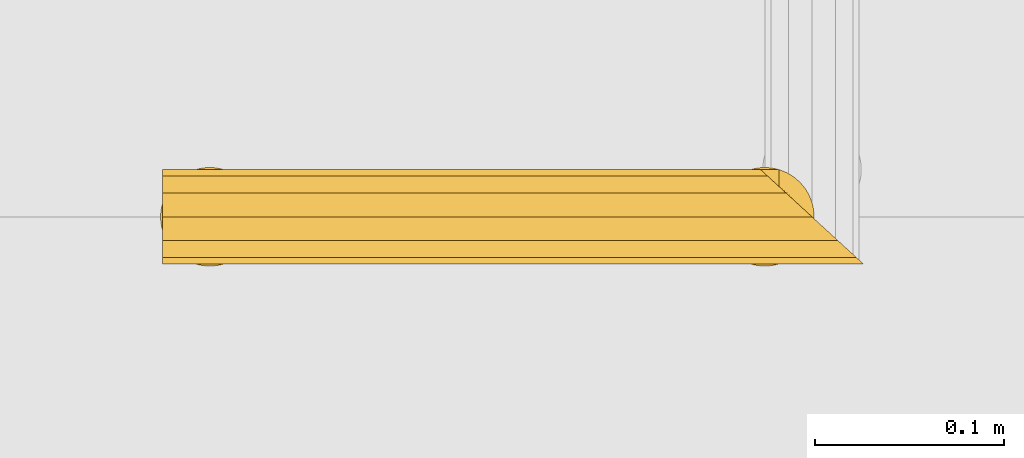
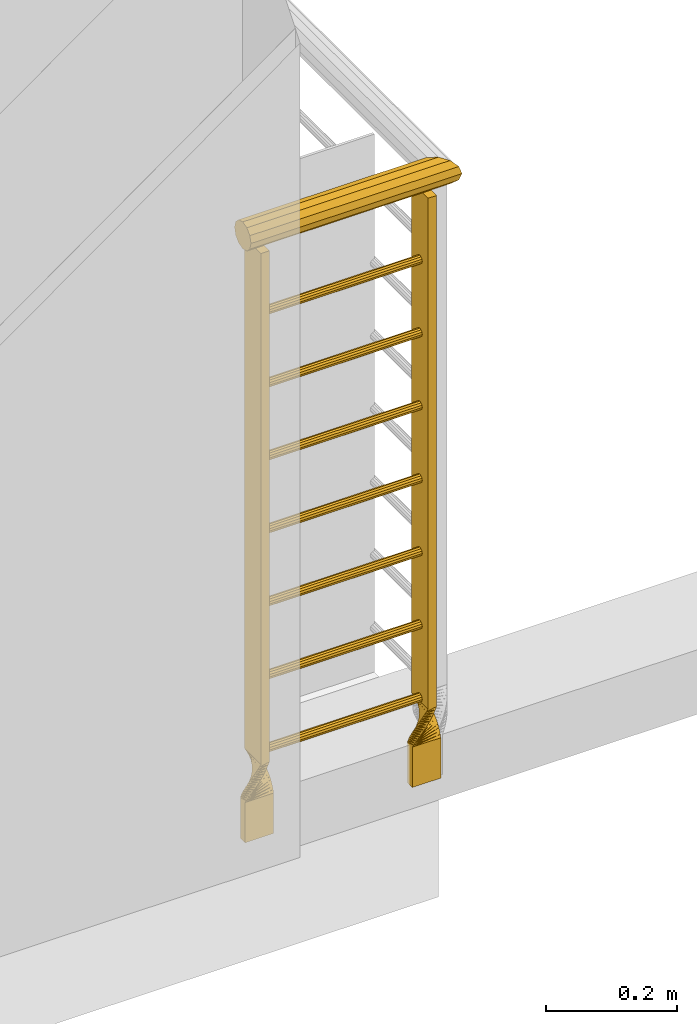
# One storey, part 17 of 17: 1 railing.
"""IFC2X3 building model written with IfcOpenShell, lengths in metres."""

from ifc_helpers import new_model, entity, si_unit, converted_unit, money_unit, direction, frame, origin_with_axes, place, context, subcontext, project, spatial, open_shell, faceted_brep, surface_model, source, transform, mapped, material, type_object, element, save


model = new_model("IFC2X3")

# Units and contexts
model_context = context("Model", 3, precision=1e-05, world=origin_with_axes(), true_north=direction((0.0, 1.0)))
body_context = subcontext(model_context, "Body", "Model", "MODEL_VIEW")
ifc_project = project(units=[si_unit("LENGTHUNIT", "METRE"), si_unit("AREAUNIT", "SQUARE_METRE"), si_unit("VOLUMEUNIT", "CUBIC_METRE"), converted_unit("PLANEANGLEUNIT", "DEGREE", entity("IfcPlaneAngleMeasure", 0.0174532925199), si_unit("PLANEANGLEUNIT", "RADIAN"), dimensions=[0, 0, 0, 0, 0, 0, 0]), si_unit("SOLIDANGLEUNIT", "STERADIAN"), money_unit("EUR"), converted_unit("TIMEUNIT", "Year", entity("IfcTimeMeasure", 31556926.0), si_unit("TIMEUNIT", "SECOND"), dimensions=[0, 0, 0, 0, 0, 0, 0]), si_unit("MASSUNIT", "GRAM"), si_unit("THERMODYNAMICTEMPERATUREUNIT", "DEGREE_CELSIUS"), si_unit("LUMINOUSINTENSITYUNIT", "LUMEN")], contexts=[model_context])

# Site, building, storey
site_placement = place(None, origin_with_axes())
site = spatial("IfcSite", under=ifc_project, at=site_placement, Name="Undefined", CompositionType="ELEMENT")
building_placement = place(site_placement, origin_with_axes())
building = spatial("IfcBuilding", under=site, at=building_placement, Name="Undefined", CompositionType="ELEMENT")
storey_placement = place(building_placement, frame((0.0, 0.0, 9.425), z_axis=(0.0, 0.0, 1.0), x_axis=(1.0, 0.0, 0.0)))
storey = spatial("IfcBuildingStorey", under=building, at=storey_placement, Name="Mezzannine", CompositionType="ELEMENT", Elevation=9.425)

# Railing
ifc_material = material(Name="50 %")
railing_type = type_object("IfcRailingType", Name="Rampe tordue 18", PredefinedType="NOTDEFINED")
shared_shape = source(origin_with_axes(), body_context, "Body", "SurfaceModel", [
    faceted_brep([(-0.0272489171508, 0.025, 1.125), (-0.0235982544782, 0.0216506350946, 1.1375), (0.343962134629, 0.0216506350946, 1.1375), (0.343962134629, 0.025, 1.125), (0.343962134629, 0.0216506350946, 1.1125), (-0.0235982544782, 0.0216506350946, 1.1125), (-0.0136244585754, 0.0125, 1.10334936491), (0.0, 0.0, 1.1), (0.0136244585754, -0.0125, 1.10334936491), (0.0235982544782, -0.0216506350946, 1.1125), (0.0272489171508, -0.025, 1.125), (0.0235982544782, -0.0216506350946, 1.1375), (0.0136244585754, -0.0125, 1.14665063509), (0.0, 0.0, 1.15), (-0.0136244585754, 0.0125, 1.14665063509), (0.343962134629, 0.0125, 1.14665063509), (0.343962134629, -0.0125, 1.10334936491), (0.343962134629, 0.0, 1.1), (0.343962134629, 0.0125, 1.10334936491), (0.343962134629, 0.0, 1.15), (0.343962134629, -0.0125, 1.14665063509), (0.343962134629, -0.0216506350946, 1.1375), (0.343962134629, -0.025, 1.125), (0.343962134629, -0.0216506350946, 1.1125)], [[[0, 1, 2, 3]], [[0, 3, 4, 5]], [[0, 5, 6, 7, 8, 9, 10, 11, 12, 13, 14, 1]], [[14, 15, 2, 1]], [[16, 17, 18, 4, 3, 2, 15, 19, 20, 21, 22, 23]], [[5, 4, 18, 6]], [[6, 18, 17, 7]], [[7, 17, 16, 8]], [[8, 16, 23, 9]], [[9, 23, 22, 10]], [[10, 22, 21, 11]], [[11, 21, 20, 12]], [[12, 20, 19, 13]], [[13, 19, 15, 14]]]),
    faceted_brep([(0.0, -0.0075, 0.0), (0.05, -0.0075, 0.0), (0.05, -0.0075, 0.075), (0.0, -0.0075, 0.075), (0.0, 0.0075, 0.0), (0.05, 0.0075, 0.0), (0.05, 0.0075, 0.075), (0.0, 0.0075, 0.075)], [[[0, 1, 2, 3]], [[0, 4, 5, 1]], [[1, 5, 6, 2]], [[3, 2, 6, 7]], [[4, 0, 3, 7]], [[5, 4, 7, 6]]]),
    surface_model("IfcShellBasedSurfaceModel", [(0.0, -0.0075, 0.075), (0.0506147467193, -0.0050134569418, 0.0796875), (0.000855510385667, -0.00991431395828, 0.0796875), (0.05, -0.0075, 0.075), (0.0509828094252, -0.00247863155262, 0.084375), (0.0, 0.0075, 0.075), (0.0491444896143, 0.00991431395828, 0.0796875), (0.00194354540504, -0.0122331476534, 0.084375), (0.048056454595, 0.0122331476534, 0.084375), (-0.000614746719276, 0.0050134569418, 0.0796875), (0.05, 0.0075, 0.075), (0.0511006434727, 8.006441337e-05, 0.0890625), (0.0467463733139, 0.0144341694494, 0.0890625), (-0.000982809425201, 0.00247863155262, 0.084375), (0.0032536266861, -0.0144341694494, 0.0890625), (-0.00110064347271, -8.006441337e-05, 0.0890625), (0.0509671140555, 0.00263798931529, 0.09375), (0.04522686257, 0.016496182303, 0.09375), (-0.00096711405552, -0.00263798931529, 0.09375), (0.00477313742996, -0.016496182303, 0.09375), (0.0505835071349, 0.00517050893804, 0.0984375), (0.0435125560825, 0.0183993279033, 0.0984375), (-0.000583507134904, -0.00517050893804, 0.0984375), (0.00648744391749, -0.0183993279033, 0.0984375), (0.0499535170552, 0.00765323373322, 0.103125), (0.0416199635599, 0.0201252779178, 0.103125), (4.64829447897e-05, -0.00765323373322, 0.103125), (0.00838003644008, -0.0201252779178, 0.103125), (0.0490832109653, 0.0100622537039, 0.1078125), (0.0395673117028, 0.0216574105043, 0.1078125), (0.000916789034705, -0.0100622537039, 0.1078125), (0.0104326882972, -0.0216574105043, 0.1078125), (0.0479809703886, 0.0123743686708, 0.1125), (0.0373743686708, 0.0229809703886, 0.1125), (0.00201902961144, -0.0123743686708, 0.1125), (0.0126256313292, -0.0229809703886, 0.1125), (0.0466574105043, 0.0145673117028, 0.1171875), (0.0350622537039, 0.0240832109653, 0.1171875), (0.00334258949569, -0.0145673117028, 0.1171875), (0.0149377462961, -0.0240832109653, 0.1171875), (0.0451252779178, 0.0166199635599, 0.121875), (0.0326532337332, 0.0249535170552, 0.121875), (0.00487472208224, -0.0166199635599, 0.121875), (0.0173467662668, -0.0249535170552, 0.121875), (0.0433993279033, 0.0185125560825, 0.1265625), (0.030170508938, 0.0255835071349, 0.1265625), (0.00660067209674, -0.0185125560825, 0.1265625), (0.019829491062, -0.0255835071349, 0.1265625), (0.041496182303, 0.02022686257, 0.13125), (0.0276379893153, 0.0259671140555, 0.13125), (0.00850381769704, -0.02022686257, 0.13125), (0.0223620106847, -0.0259671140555, 0.13125), (0.0394341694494, 0.0217463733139, 0.1359375), (0.0250800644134, 0.0261006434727, 0.1359375), (0.0105658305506, -0.0217463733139, 0.1359375), (0.0249199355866, -0.0261006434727, 0.1359375), (0.0372331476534, 0.023056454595, 0.140625), (0.0225213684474, 0.0259828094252, 0.140625), (0.0127668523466, -0.023056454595, 0.140625), (0.0274786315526, -0.0259828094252, 0.140625), (0.0349143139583, 0.0241444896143, 0.1453125), (0.0199865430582, 0.0256147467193, 0.1453125), (0.0150856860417, -0.0241444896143, 0.1453125), (0.0300134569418, -0.0256147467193, 0.1453125), (0.0325, 0.025, 0.15), (0.0175, 0.025, 0.15), (0.0175, -0.025, 0.15), (0.0325, -0.025, 0.15)], [open_shell([[[0, 1, 2]], [[1, 0, 3]], [[4, 2, 1]], [[2, 5, 0]], [[3, 6, 1]], [[2, 4, 7]], [[1, 8, 4]], [[5, 2, 9]], [[6, 3, 10]], [[8, 1, 6]], [[11, 7, 4]], [[7, 9, 2]], [[12, 4, 8]], [[9, 10, 5]], [[10, 9, 6]], [[6, 13, 8]], [[7, 11, 14]], [[4, 12, 11]], [[9, 7, 13]], [[8, 15, 12]], [[13, 6, 9]], [[15, 8, 13]], [[16, 14, 11]], [[14, 13, 7]], [[17, 11, 12]], [[18, 12, 15]], [[13, 14, 15]], [[14, 16, 19]], [[11, 17, 16]], [[12, 18, 17]], [[15, 19, 18]], [[19, 15, 14]], [[20, 19, 16]], [[21, 16, 17]], [[22, 17, 18]], [[23, 18, 19]], [[19, 20, 23]], [[16, 21, 20]], [[17, 22, 21]], [[18, 23, 22]], [[24, 23, 20]], [[25, 20, 21]], [[26, 21, 22]], [[27, 22, 23]], [[23, 24, 27]], [[20, 25, 24]], [[21, 26, 25]], [[22, 27, 26]], [[28, 27, 24]], [[29, 24, 25]], [[30, 25, 26]], [[31, 26, 27]], [[27, 28, 31]], [[24, 29, 28]], [[25, 30, 29]], [[26, 31, 30]], [[32, 31, 28]], [[33, 28, 29]], [[34, 29, 30]], [[35, 30, 31]], [[31, 32, 35]], [[28, 33, 32]], [[29, 34, 33]], [[30, 35, 34]], [[36, 35, 32]], [[37, 32, 33]], [[38, 33, 34]], [[39, 34, 35]], [[35, 36, 39]], [[32, 37, 36]], [[33, 38, 37]], [[34, 39, 38]], [[40, 39, 36]], [[41, 36, 37]], [[42, 37, 38]], [[43, 38, 39]], [[39, 40, 43]], [[36, 41, 40]], [[37, 42, 41]], [[38, 43, 42]], [[44, 43, 40]], [[45, 40, 41]], [[46, 41, 42]], [[47, 42, 43]], [[43, 44, 47]], [[40, 45, 44]], [[41, 46, 45]], [[42, 47, 46]], [[48, 47, 44]], [[49, 44, 45]], [[50, 45, 46]], [[51, 46, 47]], [[47, 48, 51]], [[44, 49, 48]], [[45, 50, 49]], [[46, 51, 50]], [[52, 51, 48]], [[53, 48, 49]], [[54, 49, 50]], [[55, 50, 51]], [[51, 52, 55]], [[48, 53, 52]], [[49, 54, 53]], [[50, 55, 54]], [[56, 55, 52]], [[57, 52, 53]], [[58, 53, 54]], [[59, 54, 55]], [[55, 56, 59]], [[52, 57, 56]], [[53, 58, 57]], [[54, 59, 58]], [[60, 59, 56]], [[61, 56, 57]], [[62, 57, 58]], [[63, 58, 59]], [[59, 60, 63]], [[56, 61, 60]], [[57, 62, 61]], [[58, 63, 62]], [[64, 63, 60]], [[65, 60, 61]], [[66, 61, 62]], [[67, 62, 63]], [[63, 64, 67]], [[60, 65, 64]], [[61, 66, 65]], [[62, 67, 66]]])]),
    faceted_brep([(0.0175, -0.025, 0.15), (0.0325, -0.025, 0.15), (0.0325, -0.025, 1.1), (0.0175, -0.025, 1.1), (0.0175, 0.025, 0.15), (0.0325, 0.025, 0.15), (0.0325, 0.025, 1.1), (0.0175, 0.025, 1.1)], [[[0, 1, 2, 3]], [[0, 4, 5, 1]], [[1, 5, 6, 2]], [[3, 2, 6, 7]], [[4, 0, 3, 7]], [[5, 4, 7, 6]]]),
    faceted_brep([(0.293962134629, -0.0075, 0.0), (0.343962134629, -0.0075, 0.0), (0.343962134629, -0.0075, 0.075), (0.293962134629, -0.0075, 0.075), (0.293962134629, 0.0075, 0.0), (0.343962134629, 0.0075, 0.0), (0.343962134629, 0.0075, 0.075), (0.293962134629, 0.0075, 0.075)], [[[0, 1, 2, 3]], [[0, 4, 5, 1]], [[1, 5, 6, 2]], [[3, 2, 6, 7]], [[4, 0, 3, 7]], [[5, 4, 7, 6]]]),
    surface_model("IfcShellBasedSurfaceModel", [(0.293962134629, -0.0075, 0.075), (0.344576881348, -0.0050134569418, 0.0796875), (0.294817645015, -0.00991431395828, 0.0796875), (0.343962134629, -0.0075, 0.075), (0.344944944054, -0.00247863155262, 0.084375), (0.293962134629, 0.0075, 0.075), (0.343106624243, 0.00991431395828, 0.0796875), (0.295905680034, -0.0122331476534, 0.084375), (0.342018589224, 0.0122331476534, 0.084375), (0.29334738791, 0.0050134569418, 0.0796875), (0.343962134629, 0.0075, 0.075), (0.345062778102, 8.006441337e-05, 0.0890625), (0.340708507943, 0.0144341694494, 0.0890625), (0.292979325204, 0.00247863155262, 0.084375), (0.297215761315, -0.0144341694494, 0.0890625), (0.292861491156, -8.006441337e-05, 0.0890625), (0.344929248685, 0.00263798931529, 0.09375), (0.339188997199, 0.016496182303, 0.09375), (0.292995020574, -0.00263798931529, 0.09375), (0.298735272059, -0.016496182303, 0.09375), (0.344545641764, 0.00517050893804, 0.0984375), (0.337474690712, 0.0183993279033, 0.0984375), (0.293378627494, -0.00517050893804, 0.0984375), (0.300449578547, -0.0183993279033, 0.0984375), (0.343915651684, 0.00765323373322, 0.103125), (0.335582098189, 0.0201252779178, 0.103125), (0.294008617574, -0.00765323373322, 0.103125), (0.302342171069, -0.0201252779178, 0.103125), (0.343045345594, 0.0100622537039, 0.1078125), (0.333529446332, 0.0216574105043, 0.1078125), (0.294878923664, -0.0100622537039, 0.1078125), (0.304394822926, -0.0216574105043, 0.1078125), (0.341943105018, 0.0123743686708, 0.1125), (0.3313365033, 0.0229809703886, 0.1125), (0.29598116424, -0.0123743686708, 0.1125), (0.306587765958, -0.0229809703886, 0.1125), (0.340619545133, 0.0145673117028, 0.1171875), (0.329024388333, 0.0240832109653, 0.1171875), (0.297304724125, -0.0145673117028, 0.1171875), (0.308899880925, -0.0240832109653, 0.1171875), (0.339087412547, 0.0166199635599, 0.121875), (0.326615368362, 0.0249535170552, 0.121875), (0.298836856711, -0.0166199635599, 0.121875), (0.311308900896, -0.0249535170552, 0.121875), (0.337361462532, 0.0185125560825, 0.1265625), (0.324132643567, 0.0255835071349, 0.1265625), (0.300562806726, -0.0185125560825, 0.1265625), (0.313791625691, -0.0255835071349, 0.1265625), (0.335458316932, 0.02022686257, 0.13125), (0.321600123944, 0.0259671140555, 0.13125), (0.302465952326, -0.02022686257, 0.13125), (0.316324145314, -0.0259671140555, 0.13125), (0.333396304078, 0.0217463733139, 0.1359375), (0.319042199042, 0.0261006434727, 0.1359375), (0.30452796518, -0.0217463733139, 0.1359375), (0.318882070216, -0.0261006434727, 0.1359375), (0.331195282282, 0.023056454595, 0.140625), (0.316483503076, 0.0259828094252, 0.140625), (0.306728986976, -0.023056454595, 0.140625), (0.321440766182, -0.0259828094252, 0.140625), (0.328876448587, 0.0241444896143, 0.1453125), (0.313948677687, 0.0256147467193, 0.1453125), (0.309047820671, -0.0241444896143, 0.1453125), (0.323975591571, -0.0256147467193, 0.1453125), (0.326462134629, 0.025, 0.15), (0.311462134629, 0.025, 0.15), (0.311462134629, -0.025, 0.15), (0.326462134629, -0.025, 0.15)], [open_shell([[[0, 1, 2]], [[1, 0, 3]], [[4, 2, 1]], [[2, 5, 0]], [[3, 6, 1]], [[2, 4, 7]], [[1, 8, 4]], [[5, 2, 9]], [[6, 3, 10]], [[8, 1, 6]], [[11, 7, 4]], [[7, 9, 2]], [[12, 4, 8]], [[9, 10, 5]], [[10, 9, 6]], [[6, 13, 8]], [[7, 11, 14]], [[4, 12, 11]], [[9, 7, 13]], [[8, 15, 12]], [[13, 6, 9]], [[15, 8, 13]], [[16, 14, 11]], [[14, 13, 7]], [[17, 11, 12]], [[18, 12, 15]], [[13, 14, 15]], [[14, 16, 19]], [[11, 17, 16]], [[12, 18, 17]], [[15, 19, 18]], [[19, 15, 14]], [[20, 19, 16]], [[21, 16, 17]], [[22, 17, 18]], [[23, 18, 19]], [[19, 20, 23]], [[16, 21, 20]], [[17, 22, 21]], [[18, 23, 22]], [[24, 23, 20]], [[25, 20, 21]], [[26, 21, 22]], [[27, 22, 23]], [[23, 24, 27]], [[20, 25, 24]], [[21, 26, 25]], [[22, 27, 26]], [[28, 27, 24]], [[29, 24, 25]], [[30, 25, 26]], [[31, 26, 27]], [[27, 28, 31]], [[24, 29, 28]], [[25, 30, 29]], [[26, 31, 30]], [[32, 31, 28]], [[33, 28, 29]], [[34, 29, 30]], [[35, 30, 31]], [[31, 32, 35]], [[28, 33, 32]], [[29, 34, 33]], [[30, 35, 34]], [[36, 35, 32]], [[37, 32, 33]], [[38, 33, 34]], [[39, 34, 35]], [[35, 36, 39]], [[32, 37, 36]], [[33, 38, 37]], [[34, 39, 38]], [[40, 39, 36]], [[41, 36, 37]], [[42, 37, 38]], [[43, 38, 39]], [[39, 40, 43]], [[36, 41, 40]], [[37, 42, 41]], [[38, 43, 42]], [[44, 43, 40]], [[45, 40, 41]], [[46, 41, 42]], [[47, 42, 43]], [[43, 44, 47]], [[40, 45, 44]], [[41, 46, 45]], [[42, 47, 46]], [[48, 47, 44]], [[49, 44, 45]], [[50, 45, 46]], [[51, 46, 47]], [[47, 48, 51]], [[44, 49, 48]], [[45, 50, 49]], [[46, 51, 50]], [[52, 51, 48]], [[53, 48, 49]], [[54, 49, 50]], [[55, 50, 51]], [[51, 52, 55]], [[48, 53, 52]], [[49, 54, 53]], [[50, 55, 54]], [[56, 55, 52]], [[57, 52, 53]], [[58, 53, 54]], [[59, 54, 55]], [[55, 56, 59]], [[52, 57, 56]], [[53, 58, 57]], [[54, 59, 58]], [[60, 59, 56]], [[61, 56, 57]], [[62, 57, 58]], [[63, 58, 59]], [[59, 60, 63]], [[56, 61, 60]], [[57, 62, 61]], [[58, 63, 62]], [[64, 63, 60]], [[65, 60, 61]], [[66, 61, 62]], [[67, 62, 63]], [[63, 64, 67]], [[60, 65, 64]], [[61, 66, 65]], [[62, 67, 66]]])]),
    faceted_brep([(0.311462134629, -0.025, 0.15), (0.326462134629, -0.025, 0.15), (0.326462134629, -0.025, 1.1), (0.311462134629, -0.025, 1.1), (0.311462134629, 0.025, 0.15), (0.326462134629, 0.025, 0.15), (0.326462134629, 0.025, 1.1), (0.311462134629, 0.025, 1.1)], [[[0, 1, 2, 3]], [[0, 4, 5, 1]], [[1, 5, 6, 2]], [[3, 2, 6, 7]], [[4, 0, 3, 7]], [[5, 4, 7, 6]]]),
    faceted_brep([(0.0325, 0.00649519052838, 0.15375), (0.0325, 0.0075, 0.1575), (0.311462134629, 0.0075, 0.1575), (0.311462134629, 0.00649519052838, 0.15375), (0.0325, 0.00649519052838, 0.16125), (0.0325, 0.00375, 0.151004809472), (0.0325, 0.0, 0.15), (0.0325, -0.00375, 0.151004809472), (0.0325, -0.00649519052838, 0.15375), (0.0325, -0.0075, 0.1575), (0.0325, -0.00649519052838, 0.16125), (0.0325, -0.00375, 0.163995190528), (0.0325, 0.0, 0.165), (0.0325, 0.00375, 0.163995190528), (0.311462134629, 0.00649519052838, 0.16125), (0.311462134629, 0.00375, 0.163995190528), (0.311462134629, 0.0, 0.165), (0.311462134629, -0.00375, 0.163995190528), (0.311462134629, -0.00649519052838, 0.16125), (0.311462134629, -0.0075, 0.1575), (0.311462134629, -0.00649519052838, 0.15375), (0.311462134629, -0.00375, 0.151004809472), (0.311462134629, 0.0, 0.15), (0.311462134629, 0.00375, 0.151004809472)], [[[0, 1, 2, 3]], [[4, 1, 0, 5, 6, 7, 8, 9, 10, 11, 12, 13]], [[1, 4, 14, 2]], [[3, 2, 14, 15, 16, 17, 18, 19, 20, 21, 22, 23]], [[5, 0, 3, 23]], [[6, 5, 23, 22]], [[7, 6, 22, 21]], [[8, 7, 21, 20]], [[9, 8, 20, 19]], [[10, 9, 19, 18]], [[11, 10, 18, 17]], [[12, 11, 17, 16]], [[13, 12, 16, 15]], [[4, 13, 15, 14]]]),
    faceted_brep([(0.0325, 0.00649519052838, 0.289464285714), (0.0325, 0.0075, 0.293214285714), (0.311462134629, 0.0075, 0.293214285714), (0.311462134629, 0.00649519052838, 0.289464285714), (0.0325, 0.00649519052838, 0.296964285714), (0.0325, 0.00375, 0.286719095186), (0.0325, 0.0, 0.285714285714), (0.0325, -0.00375, 0.286719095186), (0.0325, -0.00649519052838, 0.289464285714), (0.0325, -0.0075, 0.293214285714), (0.0325, -0.00649519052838, 0.296964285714), (0.0325, -0.00375, 0.299709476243), (0.0325, 0.0, 0.300714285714), (0.0325, 0.00375, 0.299709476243), (0.311462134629, 0.00649519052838, 0.296964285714), (0.311462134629, 0.00375, 0.299709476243), (0.311462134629, 0.0, 0.300714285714), (0.311462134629, -0.00375, 0.299709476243), (0.311462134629, -0.00649519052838, 0.296964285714), (0.311462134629, -0.0075, 0.293214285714), (0.311462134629, -0.00649519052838, 0.289464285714), (0.311462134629, -0.00375, 0.286719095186), (0.311462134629, 0.0, 0.285714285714), (0.311462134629, 0.00375, 0.286719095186)], [[[0, 1, 2, 3]], [[4, 1, 0, 5, 6, 7, 8, 9, 10, 11, 12, 13]], [[1, 4, 14, 2]], [[3, 2, 14, 15, 16, 17, 18, 19, 20, 21, 22, 23]], [[5, 0, 3, 23]], [[6, 5, 23, 22]], [[7, 6, 22, 21]], [[8, 7, 21, 20]], [[9, 8, 20, 19]], [[10, 9, 19, 18]], [[11, 10, 18, 17]], [[12, 11, 17, 16]], [[13, 12, 16, 15]], [[4, 13, 15, 14]]]),
    faceted_brep([(0.0325, 0.00649519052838, 0.425178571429), (0.0325, 0.0075, 0.428928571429), (0.311462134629, 0.0075, 0.428928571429), (0.311462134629, 0.00649519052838, 0.425178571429), (0.0325, 0.00649519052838, 0.432678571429), (0.0325, 0.00375, 0.4224333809), (0.0325, 0.0, 0.421428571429), (0.0325, -0.00375, 0.4224333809), (0.0325, -0.00649519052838, 0.425178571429), (0.0325, -0.0075, 0.428928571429), (0.0325, -0.00649519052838, 0.432678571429), (0.0325, -0.00375, 0.435423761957), (0.0325, 0.0, 0.436428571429), (0.0325, 0.00375, 0.435423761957), (0.311462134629, 0.00649519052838, 0.432678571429), (0.311462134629, 0.00375, 0.435423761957), (0.311462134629, 0.0, 0.436428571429), (0.311462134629, -0.00375, 0.435423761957), (0.311462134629, -0.00649519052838, 0.432678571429), (0.311462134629, -0.0075, 0.428928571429), (0.311462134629, -0.00649519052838, 0.425178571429), (0.311462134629, -0.00375, 0.4224333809), (0.311462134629, 0.0, 0.421428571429), (0.311462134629, 0.00375, 0.4224333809)], [[[0, 1, 2, 3]], [[4, 1, 0, 5, 6, 7, 8, 9, 10, 11, 12, 13]], [[1, 4, 14, 2]], [[3, 2, 14, 15, 16, 17, 18, 19, 20, 21, 22, 23]], [[5, 0, 3, 23]], [[6, 5, 23, 22]], [[7, 6, 22, 21]], [[8, 7, 21, 20]], [[9, 8, 20, 19]], [[10, 9, 19, 18]], [[11, 10, 18, 17]], [[12, 11, 17, 16]], [[13, 12, 16, 15]], [[4, 13, 15, 14]]]),
    faceted_brep([(0.0325, 0.00649519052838, 0.560892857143), (0.0325, 0.0075, 0.564642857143), (0.311462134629, 0.0075, 0.564642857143), (0.311462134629, 0.00649519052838, 0.560892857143), (0.0325, 0.00649519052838, 0.568392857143), (0.0325, 0.00375, 0.558147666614), (0.0325, 0.0, 0.557142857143), (0.0325, -0.00375, 0.558147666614), (0.0325, -0.00649519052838, 0.560892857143), (0.0325, -0.0075, 0.564642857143), (0.0325, -0.00649519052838, 0.568392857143), (0.0325, -0.00375, 0.571138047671), (0.0325, 0.0, 0.572142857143), (0.0325, 0.00375, 0.571138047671), (0.311462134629, 0.00649519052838, 0.568392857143), (0.311462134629, 0.00375, 0.571138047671), (0.311462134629, 0.0, 0.572142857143), (0.311462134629, -0.00375, 0.571138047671), (0.311462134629, -0.00649519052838, 0.568392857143), (0.311462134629, -0.0075, 0.564642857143), (0.311462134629, -0.00649519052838, 0.560892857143), (0.311462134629, -0.00375, 0.558147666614), (0.311462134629, 0.0, 0.557142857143), (0.311462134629, 0.00375, 0.558147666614)], [[[0, 1, 2, 3]], [[4, 1, 0, 5, 6, 7, 8, 9, 10, 11, 12, 13]], [[1, 4, 14, 2]], [[3, 2, 14, 15, 16, 17, 18, 19, 20, 21, 22, 23]], [[5, 0, 3, 23]], [[6, 5, 23, 22]], [[7, 6, 22, 21]], [[8, 7, 21, 20]], [[9, 8, 20, 19]], [[10, 9, 19, 18]], [[11, 10, 18, 17]], [[12, 11, 17, 16]], [[13, 12, 16, 15]], [[4, 13, 15, 14]]]),
    faceted_brep([(0.0325, 0.00649519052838, 0.696607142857), (0.0325, 0.0075, 0.700357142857), (0.311462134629, 0.0075, 0.700357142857), (0.311462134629, 0.00649519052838, 0.696607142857), (0.0325, 0.00649519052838, 0.704107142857), (0.0325, 0.00375, 0.693861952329), (0.0325, 0.0, 0.692857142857), (0.0325, -0.00375, 0.693861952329), (0.0325, -0.00649519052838, 0.696607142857), (0.0325, -0.0075, 0.700357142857), (0.0325, -0.00649519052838, 0.704107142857), (0.0325, -0.00375, 0.706852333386), (0.0325, 0.0, 0.707857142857), (0.0325, 0.00375, 0.706852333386), (0.311462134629, 0.00649519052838, 0.704107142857), (0.311462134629, 0.00375, 0.706852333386), (0.311462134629, 0.0, 0.707857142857), (0.311462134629, -0.00375, 0.706852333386), (0.311462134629, -0.00649519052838, 0.704107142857), (0.311462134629, -0.0075, 0.700357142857), (0.311462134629, -0.00649519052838, 0.696607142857), (0.311462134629, -0.00375, 0.693861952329), (0.311462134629, 0.0, 0.692857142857), (0.311462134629, 0.00375, 0.693861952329)], [[[0, 1, 2, 3]], [[4, 1, 0, 5, 6, 7, 8, 9, 10, 11, 12, 13]], [[1, 4, 14, 2]], [[3, 2, 14, 15, 16, 17, 18, 19, 20, 21, 22, 23]], [[5, 0, 3, 23]], [[6, 5, 23, 22]], [[7, 6, 22, 21]], [[8, 7, 21, 20]], [[9, 8, 20, 19]], [[10, 9, 19, 18]], [[11, 10, 18, 17]], [[12, 11, 17, 16]], [[13, 12, 16, 15]], [[4, 13, 15, 14]]]),
    faceted_brep([(0.0325, 0.00649519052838, 0.832321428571), (0.0325, 0.0075, 0.836071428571), (0.311462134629, 0.0075, 0.836071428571), (0.311462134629, 0.00649519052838, 0.832321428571), (0.0325, 0.00649519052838, 0.839821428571), (0.0325, 0.00375, 0.829576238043), (0.0325, 0.0, 0.828571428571), (0.0325, -0.00375, 0.829576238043), (0.0325, -0.00649519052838, 0.832321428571), (0.0325, -0.0075, 0.836071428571), (0.0325, -0.00649519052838, 0.839821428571), (0.0325, -0.00375, 0.8425666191), (0.0325, 0.0, 0.843571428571), (0.0325, 0.00375, 0.8425666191), (0.311462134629, 0.00649519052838, 0.839821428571), (0.311462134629, 0.00375, 0.8425666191), (0.311462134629, 0.0, 0.843571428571), (0.311462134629, -0.00375, 0.8425666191), (0.311462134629, -0.00649519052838, 0.839821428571), (0.311462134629, -0.0075, 0.836071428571), (0.311462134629, -0.00649519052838, 0.832321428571), (0.311462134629, -0.00375, 0.829576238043), (0.311462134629, 0.0, 0.828571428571), (0.311462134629, 0.00375, 0.829576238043)], [[[0, 1, 2, 3]], [[4, 1, 0, 5, 6, 7, 8, 9, 10, 11, 12, 13]], [[1, 4, 14, 2]], [[3, 2, 14, 15, 16, 17, 18, 19, 20, 21, 22, 23]], [[5, 0, 3, 23]], [[6, 5, 23, 22]], [[7, 6, 22, 21]], [[8, 7, 21, 20]], [[9, 8, 20, 19]], [[10, 9, 19, 18]], [[11, 10, 18, 17]], [[12, 11, 17, 16]], [[13, 12, 16, 15]], [[4, 13, 15, 14]]]),
    faceted_brep([(0.0325, 0.00649519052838, 0.968035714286), (0.0325, 0.0075, 0.971785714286), (0.311462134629, 0.0075, 0.971785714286), (0.311462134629, 0.00649519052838, 0.968035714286), (0.0325, 0.00649519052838, 0.975535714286), (0.0325, 0.00375, 0.965290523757), (0.0325, 0.0, 0.964285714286), (0.0325, -0.00375, 0.965290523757), (0.0325, -0.00649519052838, 0.968035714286), (0.0325, -0.0075, 0.971785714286), (0.0325, -0.00649519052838, 0.975535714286), (0.0325, -0.00375, 0.978280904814), (0.0325, 0.0, 0.979285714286), (0.0325, 0.00375, 0.978280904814), (0.311462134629, 0.00649519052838, 0.975535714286), (0.311462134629, 0.00375, 0.978280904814), (0.311462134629, 0.0, 0.979285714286), (0.311462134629, -0.00375, 0.978280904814), (0.311462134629, -0.00649519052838, 0.975535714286), (0.311462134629, -0.0075, 0.971785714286), (0.311462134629, -0.00649519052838, 0.968035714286), (0.311462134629, -0.00375, 0.965290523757), (0.311462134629, 0.0, 0.964285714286), (0.311462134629, 0.00375, 0.965290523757)], [[[0, 1, 2, 3]], [[4, 1, 0, 5, 6, 7, 8, 9, 10, 11, 12, 13]], [[1, 4, 14, 2]], [[3, 2, 14, 15, 16, 17, 18, 19, 20, 21, 22, 23]], [[5, 0, 3, 23]], [[6, 5, 23, 22]], [[7, 6, 22, 21]], [[8, 7, 21, 20]], [[9, 8, 20, 19]], [[10, 9, 19, 18]], [[11, 10, 18, 17]], [[12, 11, 17, 16]], [[13, 12, 16, 15]], [[4, 13, 15, 14]]]),
])
railing_placement = place(storey_placement, frame((10.045862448, -0.195, -0.074478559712), z_axis=(0.0, 0.0, 1.0), x_axis=(-1.0, 0.0, 0.0)))
element("IfcRailing", 1, at=railing_placement, inside=storey, type_object=railing_type, material=ifc_material, Name="T\x87rgy-009", context=body_context, shape_type="MappedRepresentation", body=[
    mapped(shared_shape, transform((0.0, 0.0, 0.0))),
])

save(model, "model.ifc")
